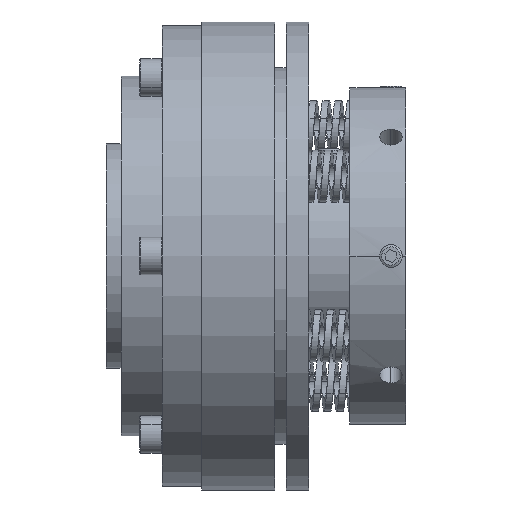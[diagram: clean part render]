
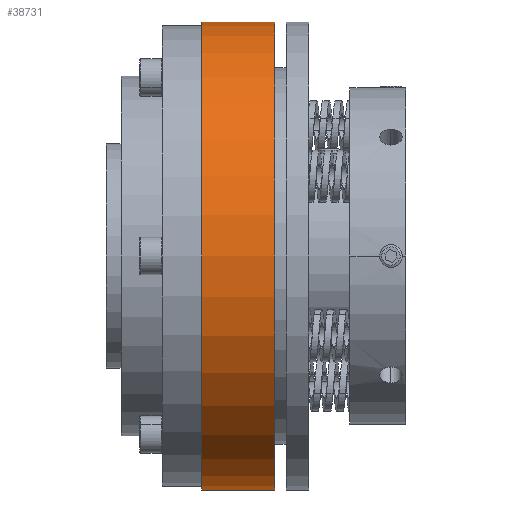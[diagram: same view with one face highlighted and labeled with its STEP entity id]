
A CAD part, front view. The second image highlights one B-rep face of the part: STEP entity #38731.
In plain terms, the highlighted cylindrical face has radius 62.5 mm (diameter 125 mm), a partial arc.
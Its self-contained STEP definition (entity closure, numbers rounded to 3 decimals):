
#249 = AXIS2_PLACEMENT_3D ( 'NONE', #12099, #18965, #23125 ) ;
#4282 = ORIENTED_EDGE ( 'NONE', *, *, #29557, .F. ) ;
#7085 = EDGE_CURVE ( 'NONE', #24514, #20572, #41216, .T. ) ;
#8151 = VECTOR ( 'NONE', #8675, 1000. ) ;
#8675 = DIRECTION ( 'NONE',  ( -1., 0., 0. ) ) ;
#10680 = EDGE_LOOP ( 'NONE', ( #30365, #17362, #35888, #4282 ) ) ;
#10916 = FACE_OUTER_BOUND ( 'NONE', #10680, .T. ) ;
#11500 = CARTESIAN_POINT ( 'NONE',  ( 25.5, 0., -62.5 ) ) ;
#12099 = CARTESIAN_POINT ( 'NONE',  ( 0., 0., 0. ) ) ;
#12801 = CARTESIAN_POINT ( 'NONE',  ( 25.5, 0., 0. ) ) ;
#16189 = EDGE_CURVE ( 'NONE', #24514, #44847, #38754, .T. ) ;
#16696 = DIRECTION ( 'NONE',  ( 0., 0., 1. ) ) ;
#17362 = ORIENTED_EDGE ( 'NONE', *, *, #7085, .T. ) ;
#18194 = VERTEX_POINT ( 'NONE', #35160 ) ;
#18965 = DIRECTION ( 'NONE',  ( -1., 0., 0. ) ) ;
#19291 = LINE ( 'NONE', #40649, #8151 ) ;
#20572 = VERTEX_POINT ( 'NONE', #41207 ) ;
#22618 = CYLINDRICAL_SURFACE ( 'NONE', #249, 62.5 ) ;
#22720 = VECTOR ( 'NONE', #44231, 1000. ) ;
#23125 = DIRECTION ( 'NONE',  ( 0., 0., 1. ) ) ;
#24514 = VERTEX_POINT ( 'NONE', #25001 ) ;
#25001 = CARTESIAN_POINT ( 'NONE',  ( 45., 0., -62.5 ) ) ;
#25234 = CARTESIAN_POINT ( 'NONE',  ( 45., 0., 0. ) ) ;
#25376 = DIRECTION ( 'NONE',  ( 0., 0., 1. ) ) ;
#26825 = DIRECTION ( 'NONE',  ( -1., 0., 0. ) ) ;
#27750 = CARTESIAN_POINT ( 'NONE',  ( 0., 0., -62.5 ) ) ;
#29418 = CIRCLE ( 'NONE', #33348, 62.5 ) ;
#29557 = EDGE_CURVE ( 'NONE', #44847, #18194, #29418, .T. ) ;
#30365 = ORIENTED_EDGE ( 'NONE', *, *, #16189, .F. ) ;
#33348 = AXIS2_PLACEMENT_3D ( 'NONE', #12801, #26825, #16696 ) ;
#35160 = CARTESIAN_POINT ( 'NONE',  ( 25.5, 0., 62.5 ) ) ;
#35888 = ORIENTED_EDGE ( 'NONE', *, *, #38740, .T. ) ;
#35978 = DIRECTION ( 'NONE',  ( -1., 0., 0. ) ) ;
#38660 = AXIS2_PLACEMENT_3D ( 'NONE', #25234, #35978, #25376 ) ;
#38731 = ADVANCED_FACE ( 'NONE', ( #10916 ), #22618, .T. ) ;
#38740 = EDGE_CURVE ( 'NONE', #20572, #18194, #19291, .T. ) ;
#38754 = LINE ( 'NONE', #27750, #22720 ) ;
#40649 = CARTESIAN_POINT ( 'NONE',  ( 0., 0., 62.5 ) ) ;
#41207 = CARTESIAN_POINT ( 'NONE',  ( 45., 0., 62.5 ) ) ;
#41216 = CIRCLE ( 'NONE', #38660, 62.5 ) ;
#44231 = DIRECTION ( 'NONE',  ( -1., 0., 0. ) ) ;
#44847 = VERTEX_POINT ( 'NONE', #11500 ) ;
